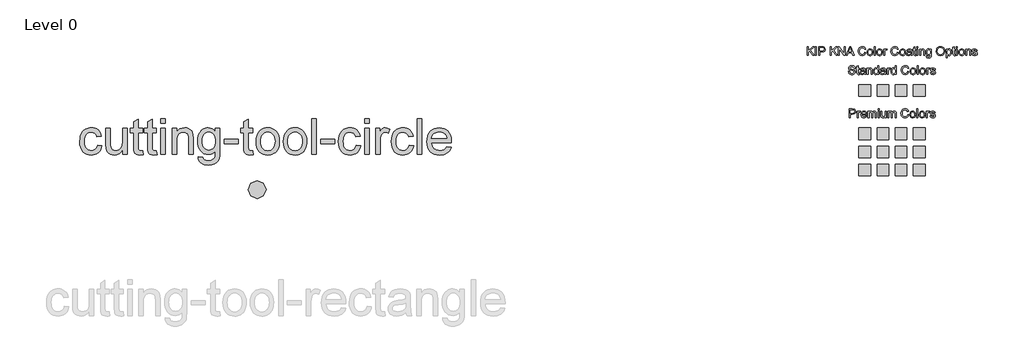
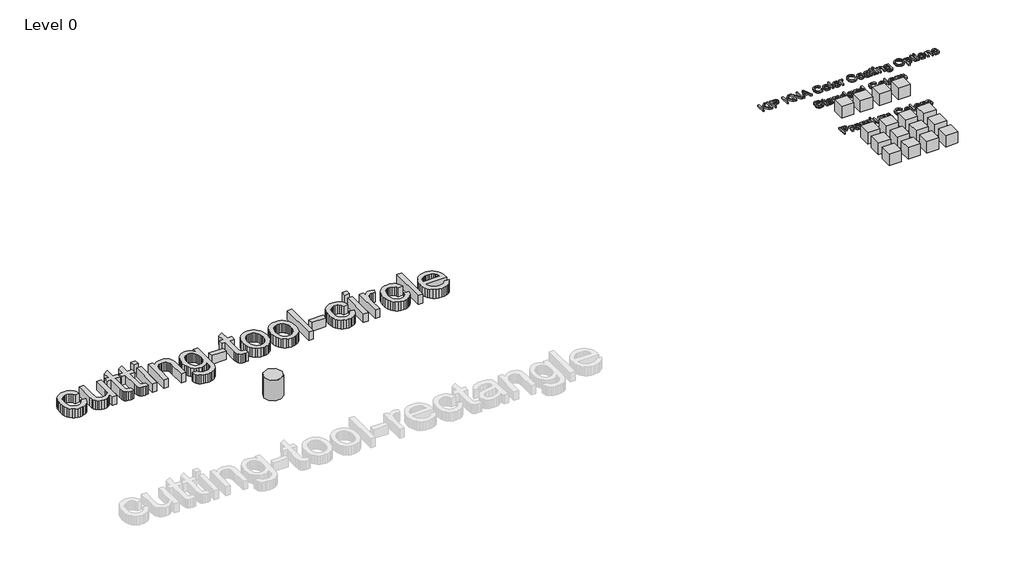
# One storey, part 3 of 3: 19 proxies.
"""IFC4 building model written with IfcOpenShell, lengths in millimetres."""

from ifc_helpers import new_model, si_unit, origin, origin_with_axes, place, context, project, spatial, polyline, outline, extrude, transform, mapped, element, save
from components import kna_colour_range_roof_only_kna_colour_range_roof_only_6b243e54, ks_colour_sample_ks_colour_sample_0243efec, kingspan_ks_cutting_tool_circle_cutting_tool_circle_f6fe257a

model = new_model("IFC4")

# Units and contexts
model_context = context("Model", 3, world=origin())
ifc_project = project(units=[si_unit("LENGTHUNIT", "METRE", prefix="MILLI")], contexts=[model_context])

# Site, building, storey
site = spatial("IfcSite", under=ifc_project)
building = spatial("IfcBuilding", under=site)
storey = spatial("IfcBuildingStorey", under=building, Name="Level 0", Elevation=0.0)

# Proxies
placement = place(None, origin())
element("IfcBuildingElementProxy", 1, Name="24\" Arial", ObjectType="24\" Arial", at=placement, inside=storey, context=model_context, shape_type="SweptSolid", body=[
    extrude(outline(polyline([(-367.9223429, 11538.2448125), (-291.7805694, 11528.7270909), (-300.0621026, 11492.7986209), (-313.0095502, 11461.0062703), (-330.6229121, 11433.350039), (-352.9021883, 11409.8299269), (-378.9086193, 11391.0593811), (-407.7034453, 11377.6518483), (-439.2866663, 11369.6073287), (-473.6582823, 11366.9258221), (-516.3625521, 11370.6669188), (-554.6518631, 11381.8902088), (-588.5262154, 11400.5956921), (-617.9856088, 11426.7833687), (-641.8310336, 11459.9606222), (-658.8634799, 11499.6348361), (-669.0829477, 11545.8060104), (-672.489437, 11598.4741451), (-666.670986, 11666.2321442), (-659.3979223, 11696.7232439), (-649.2156331, 11724.9557435), (-636.0544086, 11750.3626695), (-619.8445389, 11772.3770482), (-600.5860239, 11790.9988797), (-578.2788637, 11806.2281639), (-553.9315278, 11818.0695481), (-528.5524857, 11826.5276797), (-502.1417375, 11831.6025586), (-474.6992831, 11833.2941849), (-440.9178774, 11830.9705224), (-410.3617152, 11823.9995348), (-383.0307966, 11812.3812222), (-358.9251216, 11796.1155846), (-338.4536548, 11775.5744079), (-322.0253608, 11751.1294781), (-309.6402395, 11722.7807954), (-301.2982911, 11690.5283596), (-377.4400646, 11681.0106379), (-391.2519146, 11714.2297173), (-412.7597349, 11738.0426108), (-440.7738103, 11752.3749613), (-474.1044255, 11757.1524114), (-499.976084, 11754.8008649), (-523.3103031, 11747.7462255), (-544.1070826, 11735.9884932), (-562.3664227, 11719.5276678), (-577.2332155, 11697.9826689), (-587.8523533, 11670.9724158), (-594.2238359, 11638.4969084), (-596.3476634, 11600.5561467), (-594.2703091, 11562.0437641), (-588.0382463, 11529.1918234), (-577.6514748, 11502.0003245), (-563.1099947, 11480.4692676), (-545.213146, 11464.1060361), (-524.7602685, 11452.4180136), (-501.7513622, 11445.4052001), (-476.1864271, 11443.0675956), (-436.7585214, 11448.9046359), (-419.7074859, 11456.2009362), (-404.4317284, 11466.4157567), (-391.3588031, 11479.660633), (-380.9162637, 11496.0471011), (-373.1041103, 11515.575161), (-367.9223429, 11538.2448125)])), origin_with_axes(), (0.0, 0.0, 1.0), 152.4),
    extrude(outline(polyline([(60.3751331, 11376.4435438), (60.3751331, 11453.3288893), (32.8257903, 11415.5275474), (0.7406582, 11388.5265889), (-35.8802632, 11372.3260138), (-77.0369738, 11366.9258221), (-114.1226276, 11370.7180394), (-148.642958, 11382.0946911), (-177.6050877, 11399.1968472), (-198.0161393, 11420.1655778), (-211.7536321, 11445.6329191), (-220.6950855, 11476.2309072), (-225.1565175, 11547.0189622), (-225.1565175, 11823.7764632), (-149.014744, 11823.7764632), (-149.014744, 11582.859133), (-147.8622074, 11534.6756669), (-144.4045976, 11505.2302154), (-133.3067854, 11479.3353203), (-114.2899313, 11459.6492514), (-88.6181078, 11447.2130096), (-57.5553872, 11443.0675956), (-24.7080938, 11447.3059561), (6.0200194, 11460.0210374), (31.3572356, 11480.0417137), (48.0318378, 11506.196859), (57.2893093, 11542.0184405), (60.3751331, 11591.038425), (60.3751331, 11823.7764632), (136.5169067, 11823.7764632), (136.5169067, 11376.4435438), (60.3751331, 11376.4435438)])), origin_with_axes(), (0.0, 0.0, 1.0), 152.4),
    extrude(outline(polyline([(403.013114, 11439.9445932), (412.5308357, 11374.2128278), (382.3789908, 11368.7475735), (355.5732199, 11366.9258221), (319.0266558, 11370.0860032), (291.7747417, 11379.5665462), (272.5162267, 11394.1777362), (259.9498598, 11412.7298578), (253.0346402, 11444.5919183), (250.7295669, 11499.132925), (250.7295669, 11747.6346897), (193.6232368, 11747.6346897), (193.6232368, 11823.7764632), (250.7295669, 11823.7764632), (250.7295669, 11932.4866907), (326.8713405, 11977.2497255), (326.8713405, 11823.7764632), (403.013114, 11823.7764632), (403.013114, 11747.6346897), (326.8713405, 11747.6346897), (326.8713405, 11501.363641), (330.8866293, 11462.103039), (343.8991394, 11448.1982425), (354.8854158, 11444.3502574), (369.8498025, 11443.0675956), (403.013114, 11439.9445932)])), origin_with_axes(), (0.0, 0.0, 1.0), 152.4),
    extrude(outline(polyline([(640.9561562, 11439.9445932), (650.4738779, 11374.2128278), (620.322033, 11368.7475735), (593.5162622, 11366.9258221), (556.969698, 11370.0860032), (529.717784, 11379.5665462), (510.459269, 11394.1777362), (497.8929021, 11412.7298578), (490.9776824, 11444.5919183), (488.6726092, 11499.132925), (488.6726092, 11747.6346897), (431.566279, 11747.6346897), (431.566279, 11823.7764632), (488.6726092, 11823.7764632), (488.6726092, 11932.4866907), (564.8143827, 11977.2497255), (564.8143827, 11823.7764632), (640.9561562, 11823.7764632), (640.9561562, 11747.6346897), (564.8143827, 11747.6346897), (564.8143827, 11501.363641), (568.8296715, 11462.103039), (581.8421817, 11448.1982425), (592.8284581, 11444.3502574), (607.7928447, 11443.0675956), (640.9561562, 11439.9445932)])), origin_with_axes(), (0.0, 0.0, 1.0), 152.4),
    extrude(outline(polyline([(717.0979297, 11909.4359584), (717.0979297, 11985.577732), (793.2397032, 11985.577732), (793.2397032, 11909.4359584), (717.0979297, 11909.4359584)])), origin_with_axes(), (0.0, 0.0, 1.0), 152.4),
    extrude(outline(polyline([(717.0979297, 11376.4435438), (717.0979297, 11823.7764632), (793.2397032, 11823.7764632), (793.2397032, 11376.4435438), (717.0979297, 11376.4435438)])), origin_with_axes(), (0.0, 0.0, 1.0), 152.4),
    extrude(outline(polyline([(907.4523635, 11376.4435438), (907.4523635, 11823.7764632), (983.594137, 11823.7764632), (983.594137, 11761.3164146), (1010.0467112, 11792.8066891), (1041.8158252, 11815.2997424), (1078.901479, 11828.7955743), (1121.3036727, 11833.2941849), (1158.8354698, 11829.6692714), (1193.2070858, 11818.7945308), (1221.8717867, 11802.026982), (1242.2828383, 11780.723644), (1256.1318669, 11754.9402847), (1265.1104989, 11724.7326719), (1269.1257877, 11651.1190432), (1269.1257877, 11376.4435438), (1192.9840142, 11376.4435438), (1192.9840142, 11640.8577495), (1190.7904768, 11680.2298873), (1184.2098645, 11708.2253733), (1172.0710515, 11728.2832282), (1153.2029118, 11743.8424725), (1129.0182323, 11753.8249267), (1100.9297997, 11757.1524114), (1077.8093577, 11755.2841867), (1056.3340686, 11749.6795127), (1036.5039327, 11740.3383894), (1018.3189498, 11727.2608167), (1003.1268442, 11708.9596507), (992.2753402, 11683.9477473), (985.7644378, 11652.2251066), (983.594137, 11613.7917285), (983.594137, 11376.4435438), (907.4523635, 11376.4435438)])), origin_with_axes(), (0.0, 0.0, 1.0), 152.4),
    extrude(outline(polyline([(1354.7852829, 11338.3726571), (1430.9270565, 11328.8549354), (1439.3294201, 11305.0606311), (1455.6136471, 11288.702047), (1487.624422, 11275.9869657), (1529.5247046, 11271.7486052), (1574.2133822, 11276.5446447), (1592.2635927, 11282.539694), (1607.4510509, 11290.932763), (1630.5017831, 11313.9834952), (1644.6296513, 11344.7673763), (1648.7564759, 11377.5217232), (1649.8346553, 11433.549874), (1624.4974392, 11408.5658545), (1596.2231136, 11390.7201264), (1565.0116786, 11380.0126895), (1530.8631342, 11376.4435438), (1489.1162133, 11380.5982524), (1452.3605196, 11393.0623782), (1420.5960529, 11413.8359211), (1393.8228133, 11442.9188812), (1372.5798905, 11477.8109977), (1357.4063743, 11516.0120095), (1348.3022645, 11557.5219168), (1345.2675612, 11602.3407195), (1350.7142262, 11663.8155352), (1367.054221, 11720.3455971), (1379.1651501, 11745.8361749), (1393.7112775, 11768.2502236), (1410.6926032, 11787.5877431), (1430.1091272, 11803.8487334), (1451.6494788, 11816.7311185), (1475.0022872, 11825.9328221), (1500.1675523, 11831.4538442), (1527.1452742, 11833.2941849), (1562.7530786, 11829.1301817), (1595.070577, 11816.638172), (1624.0977692, 11795.8181558), (1649.8346553, 11766.6701331), (1649.8346553, 11823.7764632), (1725.9764288, 11823.7764632), (1725.9764288, 11437.5651628), (1720.7714248, 11348.3922899), (1714.2651697, 11315.224331), (1705.1564126, 11289.6686906), (1693.2267292, 11269.057804), (1678.2576953, 11250.7241067), (1660.2493107, 11234.6675987), (1639.2015756, 11220.88828), (1615.3282669, 11209.8276463), (1588.8431614, 11201.9271938), (1559.7462593, 11197.1869222), (1528.0375606, 11195.6068317), (1490.7334824, 11197.8329004), (1457.1937376, 11204.5111065), (1427.418326, 11215.64145), (1401.4072478, 11231.2239309), (1380.3966913, 11251.2771384), (1365.6228449, 11275.819662), (1357.0857088, 11304.8515015), (1354.7852829, 11338.3726571)]), holes=[polyline([(1421.4093348, 11607.5457236), (1423.4402158, 11569.8977434), (1429.5328589, 11537.7057228), (1439.6872642, 11510.9696619), (1453.9034315, 11489.6895605), (1471.1868333, 11473.4564541), (1490.5429421, 11461.8613781), (1511.9717579, 11454.9043325), (1535.4732806, 11452.5853173), (1558.7424371, 11454.8903906), (1580.0690118, 11461.8056102), (1599.4530045, 11473.3309763), (1616.8944154, 11489.4664889), (1631.3057704, 11510.5374606), (1641.5995953, 11536.8692043), (1647.7758903, 11568.46172), (1649.8346553, 11605.3150076), (1647.7154751, 11640.6300306), (1641.3579344, 11671.3256125), (1630.7620333, 11697.4017533), (1615.9277718, 11718.858453), (1598.1099276, 11735.6120598), (1578.5632784, 11747.5789218), (1557.2878244, 11754.759039), (1534.2835654, 11757.1524114), (1511.6650344, 11754.7962176), (1490.8031923, 11747.7276362), (1471.6980391, 11735.9466672), (1454.3495747, 11719.4533106), (1439.9382197, 11698.3219237), (1429.6443947, 11672.6268635), (1423.4680998, 11642.3681301), (1421.4093348, 11607.5457236)])]), origin_with_axes(), (0.0, 0.0, 1.0), 152.4),
    extrude(outline(polyline([(1802.1182023, 11557.2802559), (1802.1182023, 11633.4220294), (2040.0612446, 11633.4220294), (2040.0612446, 11557.2802559), (1802.1182023, 11557.2802559)])), origin_with_axes(), (0.0, 0.0, 1.0), 152.4),
    extrude(outline(polyline([(2287.5220085, 11439.9445932), (2297.0397302, 11374.2128278), (2266.8878853, 11368.7475735), (2240.0821145, 11366.9258221), (2203.5355503, 11370.0860032), (2176.2836363, 11379.5665462), (2157.0251213, 11394.1777362), (2144.4587544, 11412.7298578), (2137.5435347, 11444.5919183), (2135.2384615, 11499.132925), (2135.2384615, 11747.6346897), (2078.1321313, 11747.6346897), (2078.1321313, 11823.7764632), (2135.2384615, 11823.7764632), (2135.2384615, 11932.4866907), (2211.380235, 11977.2497255), (2211.380235, 11823.7764632), (2287.5220085, 11823.7764632), (2287.5220085, 11747.6346897), (2211.380235, 11747.6346897), (2211.380235, 11501.363641), (2215.3955238, 11462.103039), (2228.408034, 11448.1982425), (2239.3943104, 11444.3502574), (2254.358697, 11443.0675956), (2287.5220085, 11439.9445932)])), origin_with_axes(), (0.0, 0.0, 1.0), 152.4),
    extrude(outline(polyline([(2344.6283387, 11600.1100035), (2348.7458686, 11658.0435575), (2361.0984586, 11707.9651231), (2381.6861086, 11749.8747004), (2410.5088185, 11783.7722893), (2439.526716, 11805.4381186), (2471.5560803, 11820.913711), (2506.5969111, 11830.1990664), (2544.6492085, 11833.2941849), (2586.6563796, 11829.5252043), (2624.6389672, 11818.2182625), (2658.5969713, 11799.3733594), (2688.5303919, 11772.9904952), (2712.9613797, 11739.9619561), (2730.4120852, 11701.1800286), (2740.8825085, 11656.6447127), (2744.3726496, 11606.3560084), (2742.8297377, 11565.5989677), (2738.201002, 11529.4334843), (2730.4864424, 11497.8595579), (2719.686059, 11470.8771887), (2705.9346242, 11447.5708536), (2689.3669104, 11427.0250296), (2669.9829176, 11409.2397167), (2647.7826459, 11394.2149148), (2623.6304977, 11382.2759367), (2598.3908753, 11373.7480953), (2572.063779, 11368.6313904), (2544.6492085, 11366.9258221), (2502.0285906, 11370.6808608), (2463.6928063, 11381.9459767), (2429.6418557, 11400.7211698), (2399.8757388, 11427.0064403), (2375.7050012, 11460.3556448), (2358.4401887, 11500.3226402), (2348.0813012, 11546.9074264), (2344.6283387, 11600.1100035)]), holes=[polyline([(2420.7701122, 11600.2587179), (2422.9729442, 11563.3264258), (2429.5814405, 11531.3481822), (2440.5956008, 11504.323987), (2456.0154253, 11482.2538404), (2474.7720292, 11465.1098583), (2495.7965277, 11452.8641568), (2519.0889208, 11445.5167359), (2544.6492085, 11443.0675956), (2570.0793712, 11445.5306779), (2593.2788178, 11452.9199247), (2614.2475484, 11465.2353361), (2632.985563, 11482.476912), (2648.4053875, 11504.7654829), (2659.4195478, 11532.2218793), (2666.028044, 11564.8461011), (2668.2308761, 11602.6381483), (2666.0141021, 11638.3993146), (2659.3637799, 11669.5410397), (2648.2799097, 11696.0633237), (2632.7624914, 11717.9661666), (2613.9547669, 11735.1101487), (2592.9999783, 11747.3558502), (2569.8981255, 11754.7032711), (2544.6492085, 11757.1524114), (2519.0889208, 11754.7125658), (2495.7965277, 11747.3930288), (2474.7720292, 11735.1938006), (2456.0154253, 11718.114881), (2440.5956008, 11696.109797), (2429.5814405, 11669.1320751), (2422.9729442, 11637.1817154), (2420.7701122, 11600.2587179)])]), origin_with_axes(), (0.0, 0.0, 1.0), 152.4),
    extrude(outline(polyline([(2810.9967014, 11600.1100035), (2815.1142314, 11658.0435575), (2827.4668214, 11707.9651231), (2848.0544713, 11749.8747004), (2876.8771813, 11783.7722893), (2905.8950788, 11805.4381186), (2937.924443, 11820.913711), (2972.9652739, 11830.1990664), (3011.0175713, 11833.2941849), (3053.0247424, 11829.5252043), (3091.00733, 11818.2182625), (3124.9653341, 11799.3733594), (3154.8987547, 11772.9904952), (3179.3297424, 11739.9619561), (3196.780448, 11701.1800286), (3207.2508713, 11656.6447127), (3210.7410124, 11606.3560084), (3209.1981005, 11565.5989677), (3204.5693648, 11529.4334843), (3196.8548052, 11497.8595579), (3186.0544218, 11470.8771887), (3172.302987, 11447.5708536), (3155.7352732, 11427.0250296), (3136.3512804, 11409.2397167), (3114.1510087, 11394.2149148), (3089.9988605, 11382.2759367), (3064.7592381, 11373.7480953), (3038.4321418, 11368.6313904), (3011.0175713, 11366.9258221), (2968.3969534, 11370.6808608), (2930.0611691, 11381.9459767), (2896.0102185, 11400.7211698), (2866.2441016, 11427.0064403), (2842.073364, 11460.3556448), (2824.8085515, 11500.3226402), (2814.449664, 11546.9074264), (2810.9967014, 11600.1100035)]), holes=[polyline([(2887.138475, 11600.2587179), (2889.341307, 11563.3264258), (2895.9498032, 11531.3481822), (2906.9639636, 11504.323987), (2922.3837881, 11482.2538404), (2941.140392, 11465.1098583), (2962.1648905, 11452.8641568), (2985.4572836, 11445.5167359), (3011.0175713, 11443.0675956), (3036.447734, 11445.5306779), (3059.6471806, 11452.9199247), (3080.6159112, 11465.2353361), (3099.3539258, 11482.476912), (3114.7737503, 11504.7654829), (3125.7879106, 11532.2218793), (3132.3964068, 11564.8461011), (3134.5992389, 11602.6381483), (3132.3824649, 11638.3993146), (3125.7321427, 11669.5410397), (3114.6482725, 11696.0633237), (3099.1308542, 11717.9661666), (3080.3231297, 11735.1101487), (3059.3683411, 11747.3558502), (3036.2664883, 11754.7032711), (3011.0175713, 11757.1524114), (2985.4572836, 11754.7125658), (2962.1648905, 11747.3930288), (2941.140392, 11735.1938006), (2922.3837881, 11718.114881), (2906.9639636, 11696.109797), (2895.9498032, 11669.1320751), (2889.341307, 11637.1817154), (2887.138475, 11600.2587179)])]), origin_with_axes(), (0.0, 0.0, 1.0), 152.4),
    extrude(outline(polyline([(3296.4005076, 11376.4435438), (3296.4005076, 11985.577732), (3372.5422811, 11985.577732), (3372.5422811, 11376.4435438), (3296.4005076, 11376.4435438)])), origin_with_axes(), (0.0, 0.0, 1.0), 152.4),
    extrude(outline(polyline([(3448.6840547, 11557.2802559), (3448.6840547, 11633.4220294), (3686.6270969, 11633.4220294), (3686.6270969, 11557.2802559), (3448.6840547, 11557.2802559)])), origin_with_axes(), (0.0, 0.0, 1.0), 152.4),
    extrude(outline(polyline([(4057.8182428, 11538.2448125), (4133.9600163, 11528.7270909), (4125.6784831, 11492.7986209), (4112.7310355, 11461.0062703), (4095.1176736, 11433.350039), (4072.8383973, 11409.8299269), (4046.8319664, 11391.0593811), (4018.0371404, 11377.6518483), (3986.4539194, 11369.6073287), (3952.0823034, 11366.9258221), (3909.3780336, 11370.6669188), (3871.0887225, 11381.8902088), (3837.2143703, 11400.5956921), (3807.7549768, 11426.7833687), (3783.909552, 11459.9606222), (3766.8771058, 11499.6348361), (3756.657638, 11545.8060104), (3753.2511487, 11598.4741451), (3759.0695997, 11666.2321442), (3766.3426634, 11696.7232439), (3776.5249525, 11724.9557435), (3789.6861771, 11750.3626695), (3805.8960468, 11772.3770482), (3825.1545618, 11790.9988797), (3847.461722, 11806.2281639), (3871.8090579, 11818.0695481), (3897.1881, 11826.5276797), (3923.5988482, 11831.6025586), (3951.0413026, 11833.2941849), (3984.8227083, 11830.9705224), (4015.3788705, 11823.9995348), (4042.7097891, 11812.3812222), (4066.8154641, 11796.1155846), (4087.2869309, 11775.5744079), (4103.7152249, 11751.1294781), (4116.1003462, 11722.7807954), (4124.4422946, 11690.5283596), (4048.3005211, 11681.0106379), (4034.4886711, 11714.2297173), (4012.9808508, 11738.0426108), (3984.9667754, 11752.3749613), (3951.6361602, 11757.1524114), (3925.7645017, 11754.8008649), (3902.4302826, 11747.7462255), (3881.6335031, 11735.9884932), (3863.374163, 11719.5276678), (3848.5073701, 11697.9826689), (3837.8882324, 11670.9724158), (3831.5167498, 11638.4969084), (3829.3929222, 11600.5561467), (3831.4702765, 11562.0437641), (3837.7023394, 11529.1918234), (3848.0891109, 11502.0003245), (3862.630591, 11480.4692676), (3880.5274397, 11464.1060361), (3900.9803172, 11452.4180136), (3923.9892235, 11445.4052001), (3949.5541586, 11443.0675956), (3988.9820642, 11448.9046359), (4006.0330998, 11456.2009362), (4021.3088572, 11466.4157567), (4034.3817826, 11479.660633), (4044.824322, 11496.0471011), (4052.6364754, 11515.575161), (4057.8182428, 11538.2448125)])), origin_with_axes(), (0.0, 0.0, 1.0), 152.4),
    extrude(outline(polyline([(4200.5840681, 11909.4359584), (4200.5840681, 11985.577732), (4276.7258417, 11985.577732), (4276.7258417, 11909.4359584), (4200.5840681, 11909.4359584)])), origin_with_axes(), (0.0, 0.0, 1.0), 152.4),
    extrude(outline(polyline([(4200.5840681, 11376.4435438), (4200.5840681, 11823.7764632), (4276.7258417, 11823.7764632), (4276.7258417, 11376.4435438), (4200.5840681, 11376.4435438)])), origin_with_axes(), (0.0, 0.0, 1.0), 152.4),
    extrude(outline(polyline([(4390.9385019, 11376.4435438), (4390.9385019, 11823.7764632), (4457.5625538, 11823.7764632), (4457.5625538, 11757.5985546), (4482.1747872, 11795.9668702), (4504.8537334, 11818.5714592), (4527.6070368, 11829.6135035), (4552.4423418, 11833.2941849), (4590.3645142, 11827.4199661), (4628.8815442, 11809.7973095), (4603.4513815, 11741.5373993), (4576.6827893, 11753.2486584), (4549.914197, 11757.1524114), (4527.1794829, 11753.3973728), (4506.8613778, 11742.1322569), (4490.4470258, 11724.2121715), (4479.4235708, 11700.4922245), (4470.1660993, 11657.9599057), (4467.0802754, 11611.5610124), (4467.0802754, 11376.4435438), (4390.9385019, 11376.4435438)])), origin_with_axes(), (0.0, 0.0, 1.0), 152.4),
    extrude(outline(polyline([(4962.0018033, 11538.2448125), (5038.1435768, 11528.7270909), (5029.8620436, 11492.7986209), (5016.914596, 11461.0062703), (4999.3012341, 11433.350039), (4977.0219578, 11409.8299269), (4951.0155269, 11391.0593811), (4922.2207009, 11377.6518483), (4890.6374799, 11369.6073287), (4856.2658639, 11366.9258221), (4813.5615941, 11370.6669188), (4775.272283, 11381.8902088), (4741.3979308, 11400.5956921), (4711.9385374, 11426.7833687), (4688.0931126, 11459.9606222), (4671.0606663, 11499.6348361), (4660.8411985, 11545.8060104), (4657.4347092, 11598.4741451), (4663.2531602, 11666.2321442), (4670.5262239, 11696.7232439), (4680.7085131, 11724.9557435), (4693.8697376, 11750.3626695), (4710.0796073, 11772.3770482), (4729.3381223, 11790.9988797), (4751.6452825, 11806.2281639), (4775.9926184, 11818.0695481), (4801.3716605, 11826.5276797), (4827.7824087, 11831.6025586), (4855.2248631, 11833.2941849), (4889.0062688, 11830.9705224), (4919.562431, 11823.9995348), (4946.8933496, 11812.3812222), (4970.9990246, 11796.1155846), (4991.4704914, 11775.5744079), (5007.8987854, 11751.1294781), (5020.2839067, 11722.7807954), (5028.6258551, 11690.5283596), (4952.4840816, 11681.0106379), (4938.6722316, 11714.2297173), (4917.1644113, 11738.0426108), (4889.1503359, 11752.3749613), (4855.8197207, 11757.1524114), (4829.9480622, 11754.8008649), (4806.6138431, 11747.7462255), (4785.8170636, 11735.9884932), (4767.5577235, 11719.5276678), (4752.6909307, 11697.9826689), (4742.0717929, 11670.9724158), (4735.7003103, 11638.4969084), (4733.5764828, 11600.5561467), (4735.653837, 11562.0437641), (4741.8858999, 11529.1918234), (4752.2726714, 11502.0003245), (4766.8141515, 11480.4692676), (4784.7110002, 11464.1060361), (4805.1638777, 11452.4180136), (4828.172784, 11445.4052001), (4853.7377191, 11443.0675956), (4893.1656248, 11448.9046359), (4910.2166603, 11456.2009362), (4925.4924178, 11466.4157567), (4938.5653431, 11479.660633), (4949.0078825, 11496.0471011), (4956.8200359, 11515.575161), (4962.0018033, 11538.2448125)])), origin_with_axes(), (0.0, 0.0, 1.0), 152.4),
    extrude(outline(polyline([(5104.7676287, 11376.4435438), (5104.7676287, 11985.577732), (5180.9094022, 11985.577732), (5180.9094022, 11376.4435438), (5104.7676287, 11376.4435438)])), origin_with_axes(), (0.0, 0.0, 1.0), 152.4),
    extrude(outline(polyline([(5608.3145918, 11509.6916475), (5682.9692213, 11500.1739258), (5671.5228597, 11470.2730365), (5656.0705039, 11443.9227035), (5636.612154, 11421.1229268), (5613.1478098, 11401.8737065), (5585.9191324, 11386.5840071), (5555.1677826, 11375.6627932), (5520.8937604, 11369.1100649), (5483.0970658, 11366.9258221), (5435.8523594, 11370.6948027), (5393.7568892, 11382.0017446), (5356.8106551, 11400.8466476), (5325.0136571, 11427.2295119), (5299.4440747, 11460.41606), (5281.1800873, 11499.6720147), (5270.2216949, 11544.9973758), (5266.5688974, 11596.3921435), (5270.2588735, 11649.529658), (5281.3288017, 11696.3653998), (5299.7786821, 11736.8993689), (5325.6085147, 11771.1315651), (5357.3218608, 11798.3277113), (5393.4222818, 11817.75353), (5433.9097776, 11829.4090212), (5478.7843482, 11833.2941849), (5522.2136007, 11829.4183158), (5561.4881447, 11817.7907086), (5596.60798, 11798.4113631), (5627.5731068, 11771.2802795), (5652.8499077, 11737.1224405), (5670.9047655, 11696.6628286), (5681.7376802, 11649.901444), (5685.3486517, 11596.8382867), (5684.9025085, 11576.3156993), (5342.7106709, 11576.3156993), (5347.1209824, 11545.9314882), (5355.8904847, 11519.320905), (5369.019178, 11496.4839497), (5386.5070621, 11477.4206224), (5407.3874935, 11462.3911732), (5430.6938286, 11451.6558523), (5456.4260674, 11445.2146598), (5484.5842098, 11443.0675956), (5525.1088842, 11447.0457059), (5559.2388393, 11458.9800366), (5586.9740752, 11479.6141598), (5608.3145918, 11509.6916475)]), holes=[polyline([(5342.7106709, 11652.4574728), (5609.2068782, 11652.4574728), (5598.9084059, 11692.6847184), (5590.0506044, 11708.5042128), (5578.7204259, 11721.4609551), (5557.9561776, 11737.0759672), (5534.3291771, 11748.2295473), (5507.8394243, 11754.9216954), (5478.4869194, 11757.1524114), (5451.7136798, 11755.3724859), (5427.1618616, 11750.0327094), (5404.8314648, 11741.133082), (5384.7224893, 11728.6736035), (5367.8480521, 11713.2305424), (5355.2212699, 11695.3801669), (5346.8421429, 11675.1224771), (5342.7106709, 11652.4574728)])]), origin_with_axes(), (0.0, 0.0, 1.0), 152.4),
])
kna_colour_range_roof_only_kna_colour_range_roof_only_shape = kna_colour_range_roof_only_kna_colour_range_roof_only_6b243e54(model_context)
element("IfcBuildingElementProxy", 2, Name="KNA_Colour Range - Roof Only : KNA_Colour Range - Roof Only", ObjectType="KNA_Colour Range - Roof Only : KNA_Colour Range - Roof Only", at=placement, inside=storey, context=model_context, shape_type="MappedRepresentation", body=[
    mapped(kna_colour_range_roof_only_kna_colour_range_roof_only_shape, transform((13221.5853815, 10491.2290821, 0.0), x_axis=(1.0, 0.0, 0.0), y_axis=(0.0, 1.0, 0.0), z_axis=(0.0, 0.0, 1.0))),
])
ks_colour_sample_ks_colour_sample_shape = ks_colour_sample_ks_colour_sample_0243efec(model_context)
element("IfcBuildingElementProxy", 3, Name="KS_Colour Sample : KS_Colour Sample", ObjectType="KS_Colour Sample : KS_Colour Sample", at=placement, inside=storey, context=model_context, shape_type="MappedRepresentation", body=[
    mapped(ks_colour_sample_ks_colour_sample_shape, transform((12756.5853815, 12469.7096271, 0.0), x_axis=(1.0, 0.0, 0.0), y_axis=(0.0, 1.0, 0.0), z_axis=(0.0, 0.0, 1.0))),
])
element("IfcBuildingElementProxy", 4, Name="KS_Colour Sample : KS_Colour Sample", ObjectType="KS_Colour Sample : KS_Colour Sample", at=placement, inside=storey, context=model_context, shape_type="MappedRepresentation", body=[
    mapped(ks_colour_sample_ks_colour_sample_shape, transform((13066.5853815, 12469.7096271, 0.0), x_axis=(1.0, 0.0, 0.0), y_axis=(0.0, 1.0, 0.0), z_axis=(0.0, 0.0, 1.0))),
])
element("IfcBuildingElementProxy", 5, Name="KS_Colour Sample : KS_Colour Sample", ObjectType="KS_Colour Sample : KS_Colour Sample", at=placement, inside=storey, context=model_context, shape_type="MappedRepresentation", body=[
    mapped(ks_colour_sample_ks_colour_sample_shape, transform((13376.5853815, 12469.7096271, 0.0), x_axis=(1.0, 0.0, 0.0), y_axis=(0.0, 1.0, 0.0), z_axis=(0.0, 0.0, 1.0))),
])
element("IfcBuildingElementProxy", 6, Name="KS_Colour Sample : KS_Colour Sample", ObjectType="KS_Colour Sample : KS_Colour Sample", at=placement, inside=storey, context=model_context, shape_type="MappedRepresentation", body=[
    mapped(ks_colour_sample_ks_colour_sample_shape, transform((13686.5853815, 12469.7096271, 0.0), x_axis=(1.0, 0.0, 0.0), y_axis=(0.0, 1.0, 0.0), z_axis=(0.0, 0.0, 1.0))),
])
element("IfcBuildingElementProxy", 7, Name="KS_Colour Sample : KS_Colour Sample", ObjectType="KS_Colour Sample : KS_Colour Sample", at=placement, inside=storey, context=model_context, shape_type="MappedRepresentation", body=[
    mapped(ks_colour_sample_ks_colour_sample_shape, transform((12756.5853815, 11729.7096271, 0.0), x_axis=(1.0, 0.0, 0.0), y_axis=(0.0, 1.0, 0.0), z_axis=(0.0, 0.0, 1.0))),
])
element("IfcBuildingElementProxy", 8, Name="KS_Colour Sample : KS_Colour Sample", ObjectType="KS_Colour Sample : KS_Colour Sample", at=placement, inside=storey, context=model_context, shape_type="MappedRepresentation", body=[
    mapped(ks_colour_sample_ks_colour_sample_shape, transform((13066.5853815, 11729.7096271, 0.0), x_axis=(1.0, 0.0, 0.0), y_axis=(0.0, 1.0, 0.0), z_axis=(0.0, 0.0, 1.0))),
])
element("IfcBuildingElementProxy", 9, Name="KS_Colour Sample : KS_Colour Sample", ObjectType="KS_Colour Sample : KS_Colour Sample", at=placement, inside=storey, context=model_context, shape_type="MappedRepresentation", body=[
    mapped(ks_colour_sample_ks_colour_sample_shape, transform((13376.5853815, 11729.7096271, 0.0), x_axis=(1.0, 0.0, 0.0), y_axis=(0.0, 1.0, 0.0), z_axis=(0.0, 0.0, 1.0))),
])
element("IfcBuildingElementProxy", 10, Name="KS_Colour Sample : KS_Colour Sample", ObjectType="KS_Colour Sample : KS_Colour Sample", at=placement, inside=storey, context=model_context, shape_type="MappedRepresentation", body=[
    mapped(ks_colour_sample_ks_colour_sample_shape, transform((13686.5853815, 11729.7096271, 0.0), x_axis=(1.0, 0.0, 0.0), y_axis=(0.0, 1.0, 0.0), z_axis=(0.0, 0.0, 1.0))),
])
element("IfcBuildingElementProxy", 11, Name="KS_Colour Sample : KS_Colour Sample", ObjectType="KS_Colour Sample : KS_Colour Sample", at=placement, inside=storey, context=model_context, shape_type="MappedRepresentation", body=[
    mapped(ks_colour_sample_ks_colour_sample_shape, transform((12756.5853815, 11419.7096271, 0.0), x_axis=(1.0, 0.0, 0.0), y_axis=(0.0, 1.0, 0.0), z_axis=(0.0, 0.0, 1.0))),
])
element("IfcBuildingElementProxy", 12, Name="KS_Colour Sample : KS_Colour Sample", ObjectType="KS_Colour Sample : KS_Colour Sample", at=placement, inside=storey, context=model_context, shape_type="MappedRepresentation", body=[
    mapped(ks_colour_sample_ks_colour_sample_shape, transform((13066.5853815, 11419.7096271, 0.0), x_axis=(1.0, 0.0, 0.0), y_axis=(0.0, 1.0, 0.0), z_axis=(0.0, 0.0, 1.0))),
])
element("IfcBuildingElementProxy", 13, Name="KS_Colour Sample : KS_Colour Sample", ObjectType="KS_Colour Sample : KS_Colour Sample", at=placement, inside=storey, context=model_context, shape_type="MappedRepresentation", body=[
    mapped(ks_colour_sample_ks_colour_sample_shape, transform((13376.5853815, 11419.7096271, 0.0), x_axis=(1.0, 0.0, 0.0), y_axis=(0.0, 1.0, 0.0), z_axis=(0.0, 0.0, 1.0))),
])
element("IfcBuildingElementProxy", 14, Name="KS_Colour Sample : KS_Colour Sample", ObjectType="KS_Colour Sample : KS_Colour Sample", at=placement, inside=storey, context=model_context, shape_type="MappedRepresentation", body=[
    mapped(ks_colour_sample_ks_colour_sample_shape, transform((13686.5853815, 11419.7096271, 0.0), x_axis=(1.0, 0.0, 0.0), y_axis=(0.0, 1.0, 0.0), z_axis=(0.0, 0.0, 1.0))),
])
element("IfcBuildingElementProxy", 15, Name="KS_Colour Sample : KS_Colour Sample", ObjectType="KS_Colour Sample : KS_Colour Sample", at=placement, inside=storey, context=model_context, shape_type="MappedRepresentation", body=[
    mapped(ks_colour_sample_ks_colour_sample_shape, transform((12756.5853815, 11109.7096271, 0.0), x_axis=(1.0, 0.0, 0.0), y_axis=(0.0, 1.0, 0.0), z_axis=(0.0, 0.0, 1.0))),
])
element("IfcBuildingElementProxy", 16, Name="KS_Colour Sample : KS_Colour Sample", ObjectType="KS_Colour Sample : KS_Colour Sample", at=placement, inside=storey, context=model_context, shape_type="MappedRepresentation", body=[
    mapped(ks_colour_sample_ks_colour_sample_shape, transform((13066.5853815, 11109.7096271, 0.0), x_axis=(1.0, 0.0, 0.0), y_axis=(0.0, 1.0, 0.0), z_axis=(0.0, 0.0, 1.0))),
])
element("IfcBuildingElementProxy", 17, Name="KS_Colour Sample : KS_Colour Sample", ObjectType="KS_Colour Sample : KS_Colour Sample", at=placement, inside=storey, context=model_context, shape_type="MappedRepresentation", body=[
    mapped(ks_colour_sample_ks_colour_sample_shape, transform((13376.5853815, 11109.7096271, 0.0), x_axis=(1.0, 0.0, 0.0), y_axis=(0.0, 1.0, 0.0), z_axis=(0.0, 0.0, 1.0))),
])
element("IfcBuildingElementProxy", 18, Name="KS_Colour Sample : KS_Colour Sample", ObjectType="KS_Colour Sample : KS_Colour Sample", at=placement, inside=storey, context=model_context, shape_type="MappedRepresentation", body=[
    mapped(ks_colour_sample_ks_colour_sample_shape, transform((13686.5853815, 11109.7096271, 0.0), x_axis=(1.0, 0.0, 0.0), y_axis=(0.0, 1.0, 0.0), z_axis=(0.0, 0.0, 1.0))),
])
kingspan_ks_cutting_tool_circle_cutting_tool_circle_shape = kingspan_ks_cutting_tool_circle_cutting_tool_circle_f6fe257a(model_context)
element("IfcBuildingElementProxy", 19, Name="kingspan-ks-cutting-tool-circle : cutting-tool-circle", ObjectType="kingspan-ks-cutting-tool-circle : cutting-tool-circle", at=placement, inside=storey, context=model_context, shape_type="MappedRepresentation", body=[
    mapped(kingspan_ks_cutting_tool_circle_cutting_tool_circle_shape, transform((2362.8656754, 10775.8783488, 0.0), x_axis=(1.0, 0.0, 0.0), y_axis=(0.0, 1.0, 0.0), z_axis=(0.0, 0.0, 1.0))),
])

save(model, "model.ifc")
